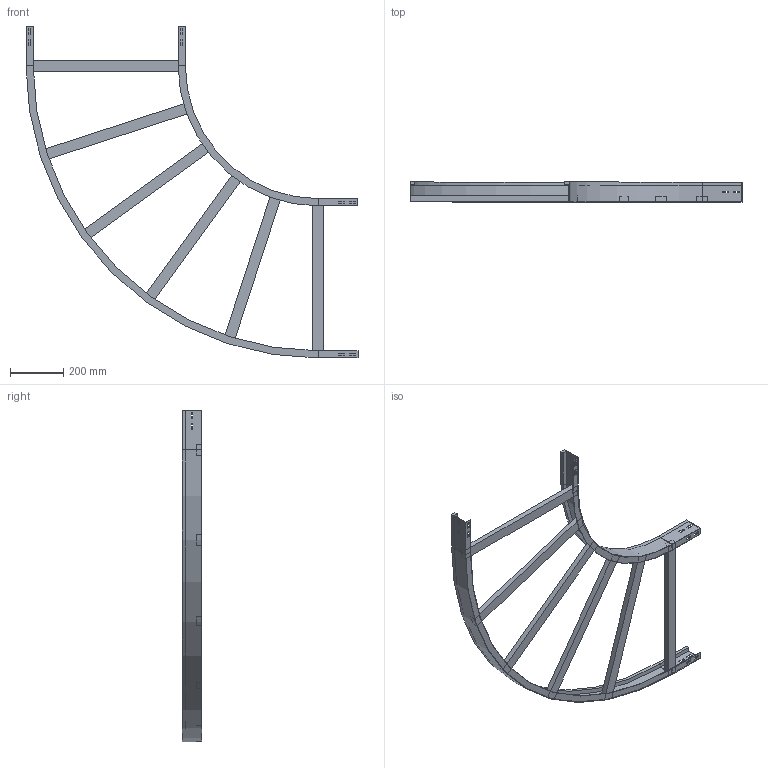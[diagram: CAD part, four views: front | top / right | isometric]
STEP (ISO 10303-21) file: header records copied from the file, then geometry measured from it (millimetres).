
FILE_DESCRIPTION (( 'STEP AP214' ), '1' );
FILE_NAME ('10B5C600.step', '2025-02-21T15:25:56', ( '' ), ( '' ), 'SwSTEP 2.0', 'SolidWorks 2023', '' );
FILE_SCHEMA (( 'AUTOMOTIVE_DESIGN' ));
Length unit declared in the file: millimetre
Products named in the file (4): TRAVERSINO_600; 10B5C600; A2_LONGH.INTERNO 90°_H75_R500; A2_LONGH.ESTERNO 90°_H75_R500+600
Assembly tree (8 placements, depth 2):
  10B5C600
    A2_LONGH.INTERNO 90°_H75_R500
    A2_LONGH.ESTERNO 90°_H75_R500+600
    TRAVERSINO_600  x6
Bounding box: 1250 x 75 x 1250 mm (x, y, z)
Volume: 4112035.5 mm3; surface area: 1175644.7 mm2
Topology: 8 solids, 8 shells, 152 faces, 376 edges, 240 vertices
Faces by surface type: plane 144, cylinder 8
Entity records: 3845 total; most frequent: CARTESIAN_POINT 649, ORIENTED_EDGE 632, DIRECTION 598, EDGE_CURVE 316, VECTOR 300, LINE 300, VERTEX_POINT 200, EDGE_LOOP 154
